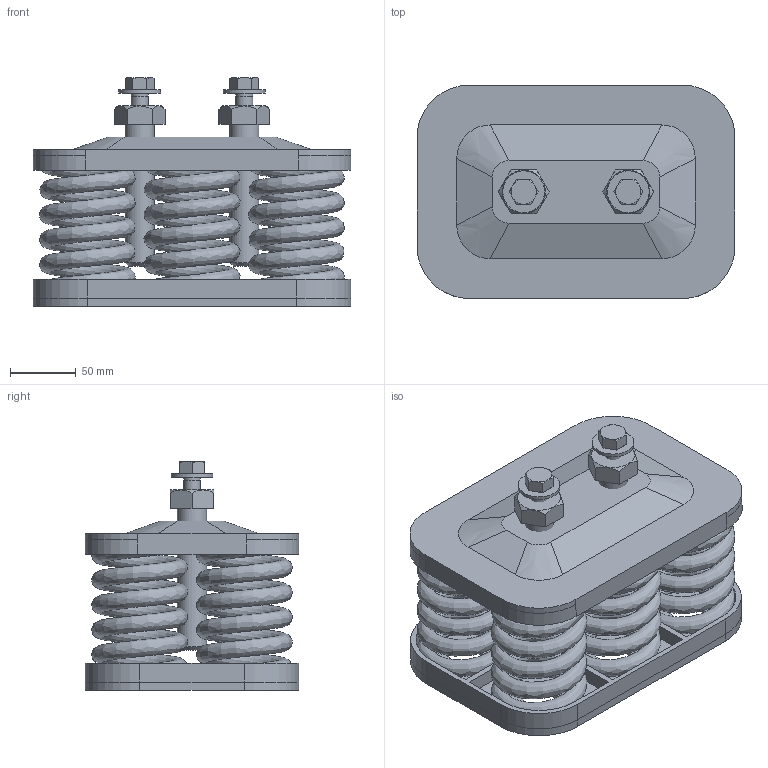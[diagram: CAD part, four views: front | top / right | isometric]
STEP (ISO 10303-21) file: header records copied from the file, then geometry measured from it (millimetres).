
FILE_DESCRIPTION(/* description */ (''),/* implementation_level */ '2;1');
FILE_NAME(/* name */ '\\Mleuckthor2\cad-proe_solids\WEBSITE FILES 05.22.13\STEP\SLF6\SLF-6-17610.stp',/* time_stamp */ '2016-02-29T09:33:30-05:00',/* author */ ('rramoutar'),/* organization */ ('Mason Industries Inc.'),/* preprocessor_version */ 'ST-DEVELOPER v15.6',/* originating_system */ 'Autodesk Inventor 2015',/* authorisation */ '');
FILE_SCHEMA (('CONFIG_CONTROL_DESIGN'));
Length unit declared in the file: inch
Products named in the file (1): SLF-6-17610
Bounding box: 241.3 x 161.93 x 173.71 mm (x, y, z)
Volume: 1666004 mm3; surface area: 591443.2 mm2
Topology: 15 solids, 15 shells, 251 faces, 594 edges, 390 vertices
Faces by surface type: plane 159, cylinder 58, cone 22, bspline 10, torus 2
Full cylindrical faces by diameter (mm): 10.592 x2, 12.7 x2, 13.487 x2, 19.05 x2, 19.177 x2, 22.225 x2, 28.575 x12, 31.75 x2
Entity records: 20199 total; most frequent: CARTESIAN_POINT 14338, DIRECTION 1116, ORIENTED_EDGE 1068, EDGE_CURVE 534, AXIS2_PLACEMENT_3D 406, VERTEX_POINT 368, EDGE_LOOP 338, LINE 304
